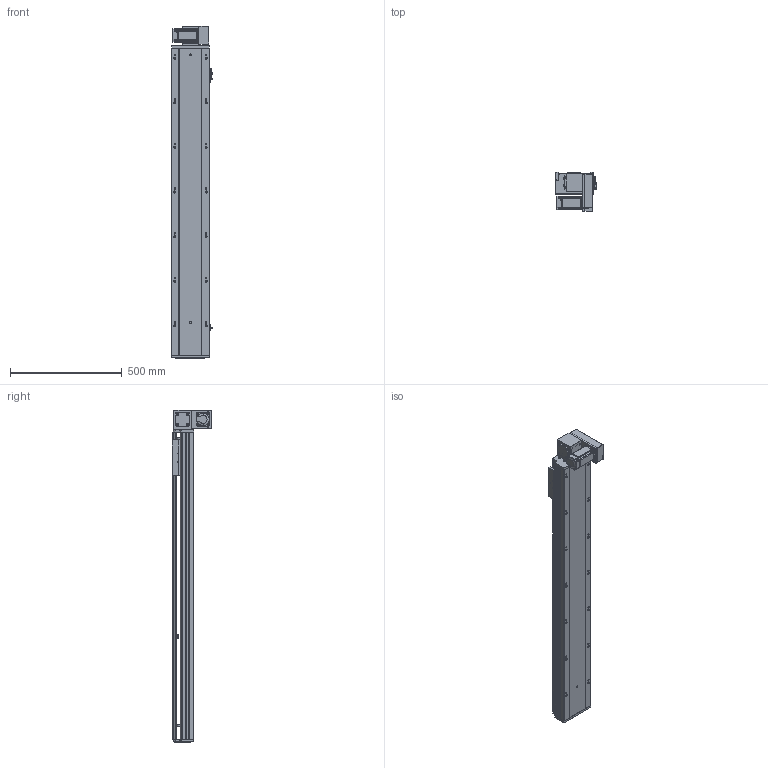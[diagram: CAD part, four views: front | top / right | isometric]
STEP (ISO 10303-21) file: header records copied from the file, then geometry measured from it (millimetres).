
FILE_DESCRIPTION (( 'STEP AP203' ), '1' );
FILE_NAME ('RY170-T-300-DR-P400W.SLDASM_1100.step', '2021-03-01T08:23:34', ( '盈信电脑' ), ( '东莞市道滘镇水果街19号' ), 'SwSTEP 2.0', 'SolidWorks 2012', '' );
FILE_SCHEMA (( 'CONFIG_CONTROL_DESIGN' ));
Length unit declared in the file: millimetre
Products named in the file (19): 15; RY170-T-300-DR-P400W.SLDASM_1100; RY170-T肮祭謫裔啣; RY170-T蹟翐M4; 滅袉蝶18-10; RY170-T-呴雄粣揤踡啣; RY120-T主同步轮轴承压盖; RY170-T肮祭湍揤踡輸1; RY170-T肮祭湍揤踡輸2; RY170肮祭謫ヶ裔啣; RY170同步轮电机安装板(400W); RY170肮祭謫萇儂欶; RY170翋肮祭謫釱; RY170外置感应片(200共用）; 覜茼ん672; RY170綴裔啣; RY170-T-300肮祭謫倰第裔啣-DR_1100; RY170肮祭湍臏賑輸; RY170-T-300肮祭謫倰第菁釱-DR_1100
Assembly tree (23 placements, depth 2):
  RY170-T-300-DR-P400W.SLDASM_1100
    RY170-T-300肮祭謫倰第菁釱-DR_1100
    RY170肮祭湍臏賑輸
    RY170-T-300肮祭謫倰第裔啣-DR_1100
    RY170綴裔啣
    覜茼ん672  x3
    RY170外置感应片(200共用）
    RY170肮祭謫ヶ裔啣
    RY170翋肮祭謫釱
    RY170同步轮电机安装板(400W)
    RY170肮祭謫萇儂欶
    RY170-T肮祭湍揤踡輸1  x2
    RY170-T肮祭湍揤踡輸2  x2
    RY120-T主同步轮轴承压盖
    RY170-T肮祭謫裔啣
    RY170-T蹟翐M4
    滅袉蝶18-10  x2
    RY170-T-呴雄粣揤踡啣
    15
Bounding box: 183.7 x 178 x 1488 mm (x, y, z)
Volume: 7339472.9 mm3; surface area: 2491374.1 mm2
Topology: 23 solids, 23 shells, 2762 faces, 7638 edges, 4897 vertices
Faces by surface type: plane 1264, cylinder 1224, cone 244, bspline 30
Entity records: 81933 total; most frequent: CARTESIAN_POINT 17991, ORIENTED_EDGE 12968, DIRECTION 12836, EDGE_CURVE 6484, AXIS2_PLACEMENT_3D 4512, VERTEX_POINT 4253, VECTOR 3812, LINE 3812
